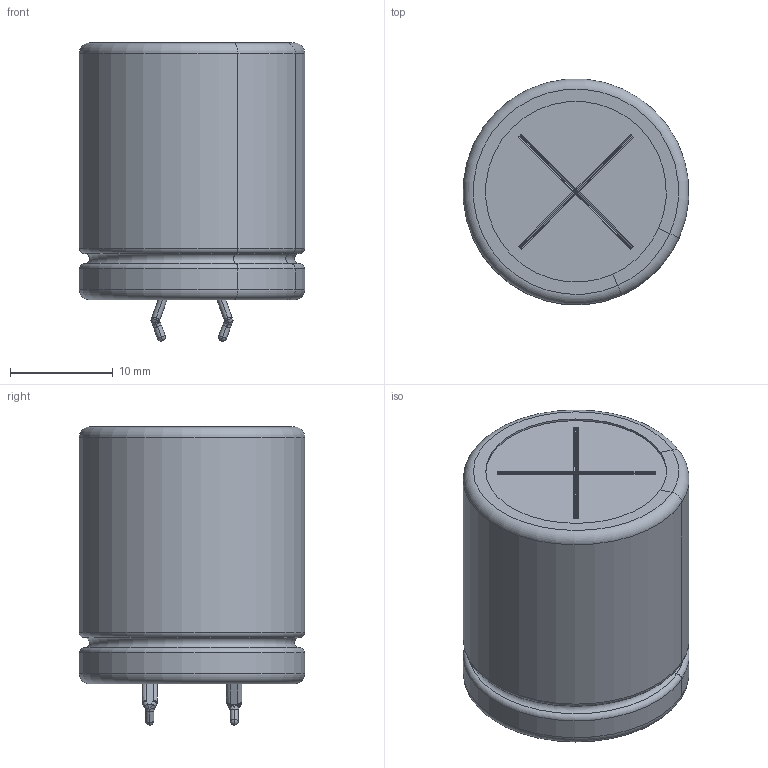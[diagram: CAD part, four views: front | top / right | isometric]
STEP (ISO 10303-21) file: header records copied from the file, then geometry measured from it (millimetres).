
FILE_DESCRIPTION(/* description */ (''),/* implementation_level */ '2;1');
FILE_NAME(/* name */ '22x25_Snap.stp',/* time_stamp */ '2017-09-11T14:08:32+09:00',/* author */ (''),/* organization */ (''),/* preprocessor_version */ 'ST-DEVELOPER v16',/* originating_system */ 'SIEMENS PLM Software NX 11.0',/* authorisation */ '');
FILE_SCHEMA (('AUTOMOTIVE_DESIGN { 1 0 10303 214 3 1 1 1 }'));
Length unit declared in the file: millimetre
Products named in the file (1): 22x25_Snap_0
Bounding box: 21.93 x 21.93 x 29.02 mm (x, y, z)
Volume: 9321.6 mm3; surface area: 6589.1 mm2
Topology: 5 solids, 5 shells, 208 faces, 523 edges, 310 vertices
Faces by surface type: cylinder 76, plane 75, torus 25, sphere 20, bspline 12
Full cylindrical faces by diameter (mm): 4 x2, 21.6 x2
Entity records: 6789 total; most frequent: CARTESIAN_POINT 1265, DIRECTION 1128, ORIENTED_EDGE 988, EDGE_CURVE 494, AXIS2_PLACEMENT_3D 437, VERTEX_POINT 310, LINE 254, VECTOR 254
